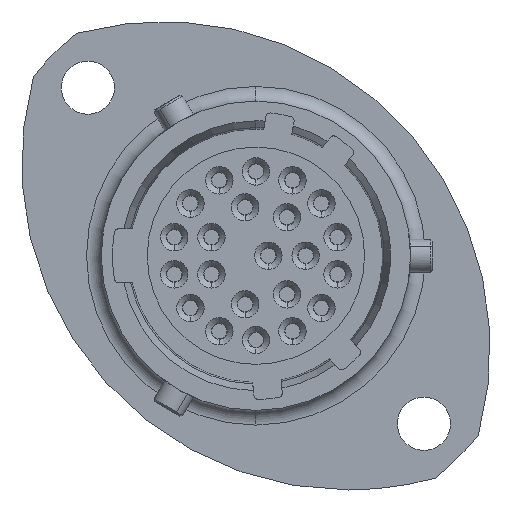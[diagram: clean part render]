
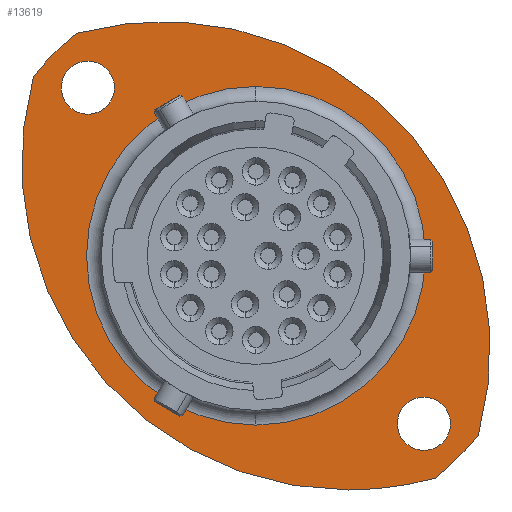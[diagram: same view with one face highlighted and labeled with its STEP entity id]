
A CAD part, left-side view. The second image highlights one B-rep face of the part: STEP entity #13619.
In plain terms, the highlighted planar face has unit normal (-1, 0, 0).
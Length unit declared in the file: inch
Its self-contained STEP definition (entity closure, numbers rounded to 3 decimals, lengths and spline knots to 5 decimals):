
#89 = DIRECTION ( 'NONE',  ( -1., 0., 0. ) ) ;
#458 = DIRECTION ( 'NONE',  ( -1., 0., 0. ) ) ;
#651 = EDGE_CURVE ( 'NONE', #9073, #5245, #7555, .T. ) ;
#1132 = ORIENTED_EDGE ( 'NONE', *, *, #11989, .F. ) ;
#1513 = VERTEX_POINT ( 'NONE', #6882 ) ;
#1516 = AXIS2_PLACEMENT_3D ( 'NONE', #7440, #5296, #7564 ) ;
#1780 = DIRECTION ( 'NONE',  ( -1., 0., 0. ) ) ;
#1811 = CARTESIAN_POINT ( 'NONE',  ( 0.44975, 0.11591, 0.01591 ) ) ;
#1891 = DIRECTION ( 'NONE',  ( 0., 0., -1. ) ) ;
#1938 = FACE_BOUND ( 'NONE', #6690, .T. ) ;
#1947 = CARTESIAN_POINT ( 'NONE',  ( 0.44975, 0.11591, 0.01591 ) ) ;
#2049 = DIRECTION ( 'NONE',  ( 0., 0., -1. ) ) ;
#2096 = AXIS2_PLACEMENT_3D ( 'NONE', #3372, #458, #7534 ) ;
#2117 = CARTESIAN_POINT ( 'NONE',  ( 0.44975, -0.28915, -0.38914 ) ) ;
#2240 = EDGE_LOOP ( 'NONE', ( #6587, #13046 ) ) ;
#2269 = DIRECTION ( 'NONE',  ( 1., 0., 0. ) ) ;
#2293 = VERTEX_POINT ( 'NONE', #12281 ) ;
#2881 = CIRCLE ( 'NONE', #5094, 0.7874 ) ;
#3040 = FACE_OUTER_BOUND ( 'NONE', #12662, .T. ) ;
#3352 = AXIS2_PLACEMENT_3D ( 'NONE', #5452, #5523, #7590 ) ;
#3372 = CARTESIAN_POINT ( 'NONE',  ( 0.44975, -0.1068, 0.23862 ) ) ;
#3491 = CARTESIAN_POINT ( 'NONE',  ( 0.44975, 0.52096, 0.42097 ) ) ;
#3744 = EDGE_CURVE ( 'NONE', #11102, #3857, #8170, .T. ) ;
#3857 = VERTEX_POINT ( 'NONE', #6887 ) ;
#3974 = DIRECTION ( 'NONE',  ( -1., 0., 0. ) ) ;
#4039 = CARTESIAN_POINT ( 'NONE',  ( 0.44975, -0.31675, -0.52027 ) ) ;
#4049 = EDGE_CURVE ( 'NONE', #6046, #9377, #2881, .T. ) ;
#4189 = CARTESIAN_POINT ( 'NONE',  ( 0.44975, 0.11591, 0.01591 ) ) ;
#4389 = DIRECTION ( 'NONE',  ( -1., 0., 0. ) ) ;
#4848 = CARTESIAN_POINT ( 'NONE',  ( 0.44975, 0.54857, 0.5521 ) ) ;
#4883 = CARTESIAN_POINT ( 'NONE',  ( 0.44975, -0.1068, -0.54878 ) ) ;
#5092 = CARTESIAN_POINT ( 'NONE',  ( 0.44975, -0.28915, -0.32517 ) ) ;
#5094 = AXIS2_PLACEMENT_3D ( 'NONE', #11207, #3974, #1891 ) ;
#5245 = VERTEX_POINT ( 'NONE', #11389 ) ;
#5296 = DIRECTION ( 'NONE',  ( -1., 0., 0. ) ) ;
#5452 = CARTESIAN_POINT ( 'NONE',  ( 0.44975, 0.52096, 0.42097 ) ) ;
#5523 = DIRECTION ( 'NONE',  ( -1., 0., 0. ) ) ;
#5575 = AXIS2_PLACEMENT_3D ( 'NONE', #2117, #4389, #2049 ) ;
#5593 = PLANE ( 'NONE',  #12069 ) ;
#5623 = DIRECTION ( 'NONE',  ( 0., 0., -1. ) ) ;
#5905 = EDGE_CURVE ( 'NONE', #5245, #9073, #9712, .T. ) ;
#6002 = ORIENTED_EDGE ( 'NONE', *, *, #7069, .T. ) ;
#6046 = VERTEX_POINT ( 'NONE', #4883 ) ;
#6457 = CIRCLE ( 'NONE', #5575, 0.06398 ) ;
#6475 = CIRCLE ( 'NONE', #11154, 0.68898 ) ;
#6537 = DIRECTION ( 'NONE',  ( -1., 0., 0. ) ) ;
#6587 = ORIENTED_EDGE ( 'NONE', *, *, #8778, .T. ) ;
#6590 = AXIS2_PLACEMENT_3D ( 'NONE', #3491, #6537, #13091 ) ;
#6690 = EDGE_LOOP ( 'NONE', ( #1132, #11927 ) ) ;
#6821 = CARTESIAN_POINT ( 'NONE',  ( 0.44975, -0.42028, -0.41675 ) ) ;
#6882 = CARTESIAN_POINT ( 'NONE',  ( 0.44975, 0.65209, 0.44857 ) ) ;
#6887 = CARTESIAN_POINT ( 'NONE',  ( 0.44975, -0.28915, -0.45312 ) ) ;
#6976 = AXIS2_PLACEMENT_3D ( 'NONE', #4189, #89, #13665 ) ;
#7068 = EDGE_LOOP ( 'NONE', ( #9573, #8519 ) ) ;
#7069 = EDGE_CURVE ( 'NONE', #11426, #1513, #11859, .T. ) ;
#7440 = CARTESIAN_POINT ( 'NONE',  ( 0.44975, -0.28915, -0.38914 ) ) ;
#7534 = DIRECTION ( 'NONE',  ( 0., 0., -1. ) ) ;
#7555 = CIRCLE ( 'NONE', #3352, 0.06398 ) ;
#7564 = DIRECTION ( 'NONE',  ( 0., 0., -1. ) ) ;
#7590 = DIRECTION ( 'NONE',  ( 0., 0., -1. ) ) ;
#7607 = CIRCLE ( 'NONE', #2096, 0.7874 ) ;
#7735 = DIRECTION ( 'NONE',  ( 0., 0., -1. ) ) ;
#7788 = AXIS2_PLACEMENT_3D ( 'NONE', #1947, #9246, #9378 ) ;
#7868 = CARTESIAN_POINT ( 'NONE',  ( 0.44975, 0.11591, -0.39236 ) ) ;
#7924 = AXIS2_PLACEMENT_3D ( 'NONE', #1811, #10354, #7985 ) ;
#7985 = DIRECTION ( 'NONE',  ( 0., 0., -1. ) ) ;
#8170 = CIRCLE ( 'NONE', #1516, 0.06398 ) ;
#8519 = ORIENTED_EDGE ( 'NONE', *, *, #5905, .F. ) ;
#8778 = EDGE_CURVE ( 'NONE', #11810, #2293, #12817, .T. ) ;
#9030 = CIRCLE ( 'NONE', #12806, 0.7874 ) ;
#9073 = VERTEX_POINT ( 'NONE', #9301 ) ;
#9246 = DIRECTION ( 'NONE',  ( 1., 0., 0. ) ) ;
#9291 = VERTEX_POINT ( 'NONE', #6821 ) ;
#9301 = CARTESIAN_POINT ( 'NONE',  ( 0.44975, 0.52096, 0.35699 ) ) ;
#9377 = VERTEX_POINT ( 'NONE', #4039 ) ;
#9378 = DIRECTION ( 'NONE',  ( 0., 0., -1. ) ) ;
#9573 = ORIENTED_EDGE ( 'NONE', *, *, #651, .F. ) ;
#9712 = CIRCLE ( 'NONE', #6590, 0.06398 ) ;
#9740 = EDGE_CURVE ( 'NONE', #9291, #11426, #9030, .T. ) ;
#10354 = DIRECTION ( 'NONE',  ( 1., 0., 0. ) ) ;
#10673 = FACE_BOUND ( 'NONE', #2240, .T. ) ;
#10714 = EDGE_CURVE ( 'NONE', #9377, #9291, #6475, .T. ) ;
#10739 = CARTESIAN_POINT ( 'NONE',  ( 0.44975, 0.48874, 0.01591 ) ) ;
#10781 = ORIENTED_EDGE ( 'NONE', *, *, #9740, .T. ) ;
#11102 = VERTEX_POINT ( 'NONE', #5092 ) ;
#11154 = AXIS2_PLACEMENT_3D ( 'NONE', #11306, #1780, #11367 ) ;
#11167 = ORIENTED_EDGE ( 'NONE', *, *, #4049, .T. ) ;
#11207 = CARTESIAN_POINT ( 'NONE',  ( 0.44975, -0.1068, 0.23862 ) ) ;
#11306 = CARTESIAN_POINT ( 'NONE',  ( 0.44975, 0.11591, 0.01591 ) ) ;
#11367 = DIRECTION ( 'NONE',  ( 0., 0., 1. ) ) ;
#11389 = CARTESIAN_POINT ( 'NONE',  ( 0.44975, 0.52096, 0.48494 ) ) ;
#11426 = VERTEX_POINT ( 'NONE', #4848 ) ;
#11462 = FACE_BOUND ( 'NONE', #7068, .T. ) ;
#11810 = VERTEX_POINT ( 'NONE', #7868 ) ;
#11859 = CIRCLE ( 'NONE', #6976, 0.68898 ) ;
#11927 = ORIENTED_EDGE ( 'NONE', *, *, #3744, .F. ) ;
#11989 = EDGE_CURVE ( 'NONE', #3857, #11102, #6457, .T. ) ;
#12069 = AXIS2_PLACEMENT_3D ( 'NONE', #10739, #2269, #7735 ) ;
#12281 = CARTESIAN_POINT ( 'NONE',  ( 0.44975, 0.11591, 0.42418 ) ) ;
#12315 = DIRECTION ( 'NONE',  ( -1., 0., 0. ) ) ;
#12542 = EDGE_CURVE ( 'NONE', #2293, #11810, #13141, .T. ) ;
#12662 = EDGE_LOOP ( 'NONE', ( #13442, #11167, #13347, #10781, #6002 ) ) ;
#12806 = AXIS2_PLACEMENT_3D ( 'NONE', #13074, #12315, #5623 ) ;
#12817 = CIRCLE ( 'NONE', #7924, 0.40827 ) ;
#13046 = ORIENTED_EDGE ( 'NONE', *, *, #12542, .T. ) ;
#13074 = CARTESIAN_POINT ( 'NONE',  ( 0.44975, 0.33862, -0.2068 ) ) ;
#13091 = DIRECTION ( 'NONE',  ( 0., 0., -1. ) ) ;
#13141 = CIRCLE ( 'NONE', #7788, 0.40827 ) ;
#13347 = ORIENTED_EDGE ( 'NONE', *, *, #10714, .T. ) ;
#13442 = ORIENTED_EDGE ( 'NONE', *, *, #13706, .T. ) ;
#13619 = ADVANCED_FACE ( 'NONE', ( #10673, #11462, #1938, #3040 ), #5593, .F. ) ;
#13665 = DIRECTION ( 'NONE',  ( 0., 0., 1. ) ) ;
#13706 = EDGE_CURVE ( 'NONE', #1513, #6046, #7607, .T. ) ;
